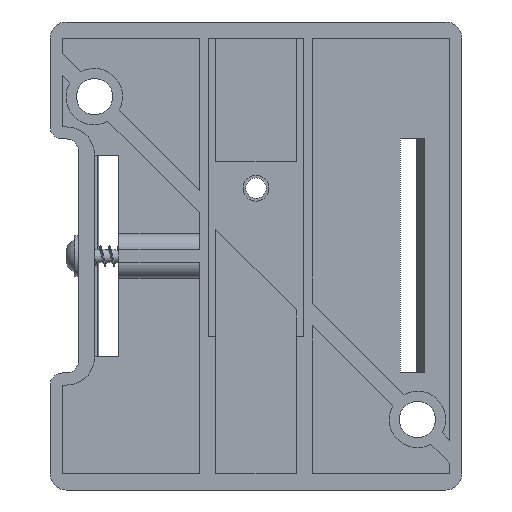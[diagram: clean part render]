
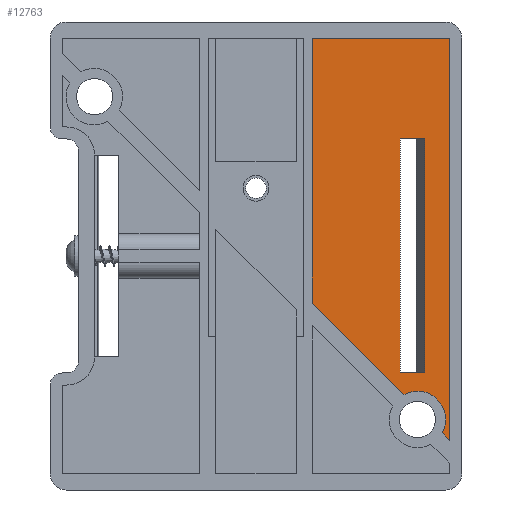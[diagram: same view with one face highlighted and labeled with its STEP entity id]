
A CAD part, left-side view. The second image highlights one B-rep face of the part: STEP entity #12763.
In plain terms, the highlighted planar face has unit normal (-1, 0, 0).
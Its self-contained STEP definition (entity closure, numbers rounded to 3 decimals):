
#6522=DIRECTION('',(0.,0.,-1.));
#6523=VECTOR('',#6522,29.);
#6524=CARTESIAN_POINT('',(2.7,-20.9,14.5));
#6525=LINE('',#6524,#6523);
#6579=DIRECTION('',(0.,0.,1.));
#6580=VECTOR('',#6579,49.836);
#6581=CARTESIAN_POINT('',(2.7,-24.,-22.836));
#6582=LINE('',#6581,#6580);
#6586=DIRECTION('',(0.,-0.707,-0.707));
#6587=VECTOR('',#6586,1.303);
#6588=CARTESIAN_POINT('',(2.7,-23.079,-21.915));
#6589=LINE('',#6588,#6587);
#6593=DIRECTION('',(0.,-0.707,-0.707));
#6594=VECTOR('',#6593,16.03);
#6595=CARTESIAN_POINT('',(2.7,-7.,-5.836));
#6596=LINE('',#6595,#6594);
#6600=DIRECTION('',(0.,0.,-1.));
#6601=VECTOR('',#6600,32.836);
#6602=CARTESIAN_POINT('',(2.7,-7.,27.));
#6603=LINE('',#6602,#6601);
#6607=DIRECTION('',(0.,1.,0.));
#6608=VECTOR('',#6607,17.);
#6609=CARTESIAN_POINT('',(2.7,-24.,27.));
#6610=LINE('',#6609,#6608);
#6670=CARTESIAN_POINT('',(2.7,-20.,-20.25));
#6671=DIRECTION('',(1.,0.,0.));
#6672=DIRECTION('',(0.,0.476,0.88));
#6673=AXIS2_PLACEMENT_3D('',#6670,#6671,#6672);
#6714=DIRECTION('',(0.,1.,0.));
#6715=VECTOR('',#6714,3.);
#6716=CARTESIAN_POINT('',(2.7,-20.9,-14.5));
#6717=LINE('',#6716,#6715);
#6728=DIRECTION('',(0.,0.,1.));
#6729=VECTOR('',#6728,29.);
#6730=CARTESIAN_POINT('',(2.7,-17.9,-14.5));
#6731=LINE('',#6730,#6729);
#6742=DIRECTION('',(0.,-1.,0.));
#6743=VECTOR('',#6742,3.);
#6744=CARTESIAN_POINT('',(2.7,-17.9,14.5));
#6745=LINE('',#6744,#6743);
#6923=CARTESIAN_POINT('',(2.7,-24.,-22.836));
#6924=CARTESIAN_POINT('',(2.7,-24.,27.));
#6925=VERTEX_POINT('',#6923);
#6926=VERTEX_POINT('',#6924);
#6927=CARTESIAN_POINT('',(2.7,-7.,27.));
#6928=VERTEX_POINT('',#6927);
#6929=CARTESIAN_POINT('',(2.7,-7.,-5.836));
#6930=VERTEX_POINT('',#6929);
#6931=CARTESIAN_POINT('',(2.7,-18.335,-17.171));
#6932=VERTEX_POINT('',#6931);
#6933=CARTESIAN_POINT('',(2.7,-23.079,-21.915));
#6934=VERTEX_POINT('',#6933);
#6959=CARTESIAN_POINT('',(2.7,-20.9,-14.5));
#6960=CARTESIAN_POINT('',(2.7,-17.9,-14.5));
#6961=VERTEX_POINT('',#6959);
#6962=VERTEX_POINT('',#6960);
#6963=CARTESIAN_POINT('',(2.7,-17.9,14.5));
#6964=VERTEX_POINT('',#6963);
#6965=CARTESIAN_POINT('',(2.7,-20.9,14.5));
#6966=VERTEX_POINT('',#6965);
#12735=CARTESIAN_POINT('',(2.7,0.,0.));
#12736=DIRECTION('',(-1.,0.,0.));
#12737=DIRECTION('',(0.,0.,1.));
#12738=AXIS2_PLACEMENT_3D('',#12735,#12736,#12737);
#12739=PLANE('',#12738);
#12741=ORIENTED_EDGE('',*,*,#12740,.F.);
#12743=ORIENTED_EDGE('',*,*,#12742,.F.);
#12745=ORIENTED_EDGE('',*,*,#12744,.F.);
#12747=ORIENTED_EDGE('',*,*,#12746,.F.);
#12749=ORIENTED_EDGE('',*,*,#12748,.F.);
#12751=ORIENTED_EDGE('',*,*,#12750,.F.);
#12752=EDGE_LOOP('',(#12741,#12743,#12745,#12747,#12749,#12751));
#12753=FACE_OUTER_BOUND('',#12752,.F.);
#12755=ORIENTED_EDGE('',*,*,#12754,.F.);
#12756=ORIENTED_EDGE('',*,*,#12705,.F.);
#12758=ORIENTED_EDGE('',*,*,#12757,.F.);
#12760=ORIENTED_EDGE('',*,*,#12759,.F.);
#12761=EDGE_LOOP('',(#12755,#12756,#12758,#12760));
#12762=FACE_BOUND('',#12761,.F.);
#6674=CIRCLE('',#6673,3.5);
#12705=EDGE_CURVE('',#6966,#6961,#6525,.T.);
#12740=EDGE_CURVE('',#6925,#6926,#6582,.T.);
#12742=EDGE_CURVE('',#6934,#6925,#6589,.T.);
#12744=EDGE_CURVE('',#6932,#6934,#6674,.T.);
#12746=EDGE_CURVE('',#6930,#6932,#6596,.T.);
#12748=EDGE_CURVE('',#6928,#6930,#6603,.T.);
#12750=EDGE_CURVE('',#6926,#6928,#6610,.T.);
#12754=EDGE_CURVE('',#6961,#6962,#6717,.T.);
#12757=EDGE_CURVE('',#6964,#6966,#6745,.T.);
#12759=EDGE_CURVE('',#6962,#6964,#6731,.T.);
#12763=ADVANCED_FACE('',(#12753,#12762),#12739,.T.);
